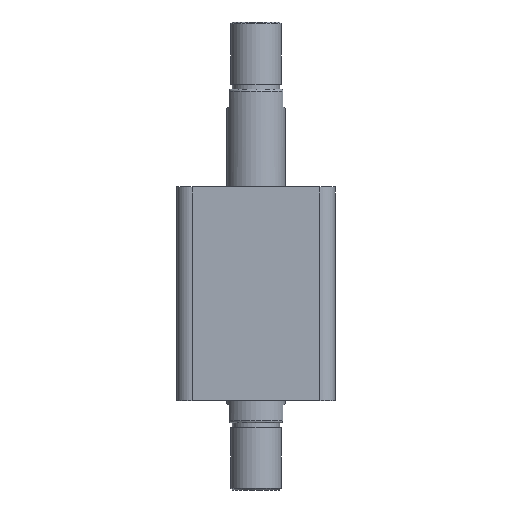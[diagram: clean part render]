
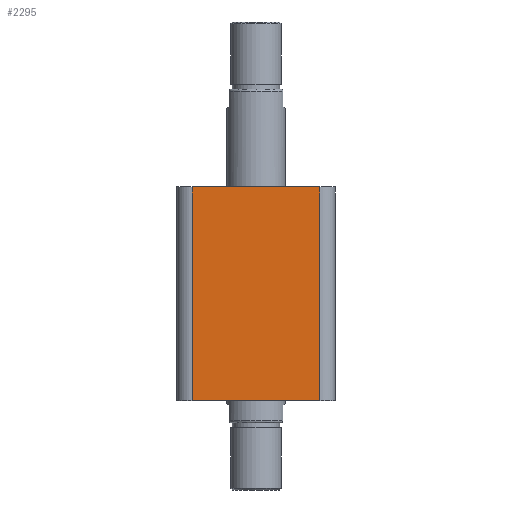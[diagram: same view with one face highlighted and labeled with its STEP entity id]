
A CAD part, front view. The second image highlights one B-rep face of the part: STEP entity #2295.
In plain terms, the highlighted planar face has unit normal (0, -1, 0).
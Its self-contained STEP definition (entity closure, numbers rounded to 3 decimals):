
#267 = CARTESIAN_POINT ( 'NONE',  ( -47., -47., 0. ) ) ;
#277 = CARTESIAN_POINT ( 'NONE',  ( -47., -47., 127. ) ) ;
#278 = DIRECTION ( 'NONE',  ( 1., 0., 0. ) ) ;
#279 = CARTESIAN_POINT ( 'NONE',  ( -38., -47., 127. ) ) ;
#280 = DIRECTION ( 'NONE',  ( 0., 0., -1. ) ) ;
#281 = DIRECTION ( 'NONE',  ( 1., 0., 0. ) ) ;
#282 = CARTESIAN_POINT ( 'NONE',  ( 38., -47., 127. ) ) ;
#283 = DIRECTION ( 'NONE',  ( 0., 0., 1. ) ) ;
#606 = FACE_OUTER_BOUND ( 'NONE', #2911, .T. ) ;
#933 = LINE ( 'NONE', #267, #946 ) ;
#939 = LINE ( 'NONE', #277, #942 ) ;
#941 = LINE ( 'NONE', #279, #944 ) ;
#942 = VECTOR ( 'NONE', #278, 1000. ) ;
#944 = VECTOR ( 'NONE', #280, 1000. ) ;
#945 = LINE ( 'NONE', #282, #948 ) ;
#946 = VECTOR ( 'NONE', #281, 1000. ) ;
#948 = VECTOR ( 'NONE', #283, 1000. ) ;
#1226 = ORIENTED_EDGE ( 'NONE', *, *, #3258, .F. ) ;
#1227 = ORIENTED_EDGE ( 'NONE', *, *, #3259, .T. ) ;
#1228 = ORIENTED_EDGE ( 'NONE', *, *, #3260, .T. ) ;
#1229 = ORIENTED_EDGE ( 'NONE', *, *, #3261, .T. ) ;
#1842 = CARTESIAN_POINT ( 'NONE',  ( -47., -47., 127. ) ) ;
#1844 = PLANE ( 'NONE',  #3409 ) ;
#1846 = DIRECTION ( 'NONE',  ( 0., 1., 0. ) ) ;
#1847 = DIRECTION ( 'NONE',  ( 0., 0., 1. ) ) ;
#2208 = CARTESIAN_POINT ( 'NONE',  ( 38., -47., 127. ) ) ;
#2225 = CARTESIAN_POINT ( 'NONE',  ( -38., -47., 0. ) ) ;
#2226 = CARTESIAN_POINT ( 'NONE',  ( 38., -47., 0. ) ) ;
#2227 = CARTESIAN_POINT ( 'NONE',  ( -38., -47., 127. ) ) ;
#2295 = ADVANCED_FACE ( 'NONE', ( #606 ), #1844, .F. ) ;
#2911 = EDGE_LOOP ( 'NONE', ( #1226, #1227, #1228, #1229 ) ) ;
#2946 = VERTEX_POINT ( 'NONE', #2208 ) ;
#2963 = VERTEX_POINT ( 'NONE', #2225 ) ;
#2964 = VERTEX_POINT ( 'NONE', #2226 ) ;
#2965 = VERTEX_POINT ( 'NONE', #2227 ) ;
#3258 = EDGE_CURVE ( 'NONE', #2965, #2946, #939, .T. ) ;
#3259 = EDGE_CURVE ( 'NONE', #2965, #2963, #941, .T. ) ;
#3260 = EDGE_CURVE ( 'NONE', #2963, #2964, #933, .T. ) ;
#3261 = EDGE_CURVE ( 'NONE', #2964, #2946, #945, .T. ) ;
#3409 = AXIS2_PLACEMENT_3D ( 'NONE', #1842, #1846, #1847 ) ;
